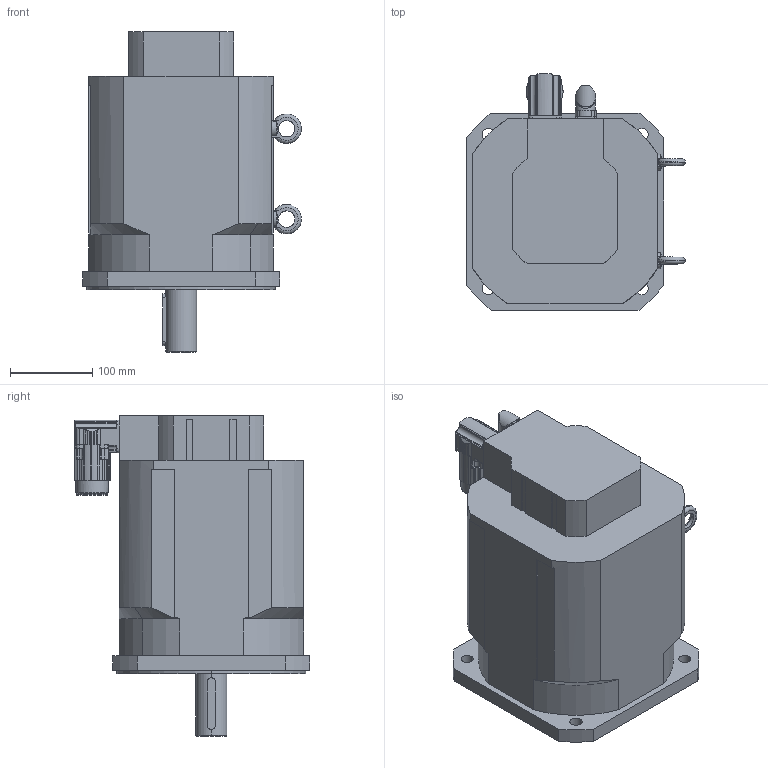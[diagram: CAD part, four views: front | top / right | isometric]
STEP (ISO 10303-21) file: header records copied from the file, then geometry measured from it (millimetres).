
FILE_DESCRIPTION(('STEP AP203'),'2;1');
FILE_NAME('MT8-0400.stp','2006-08-28T20:34:25',(''),(''),'2005.2.102','THINKDESIGN','');
FILE_SCHEMA(('CONFIG_CONTROL_DESIGN'));
Length unit declared in the file: millimetre
Bounding box: 266.5 x 287.18 x 390 mm (x, y, z)
Volume: 13407268.8 mm3; surface area: 417669.5 mm2
Topology: 5 solids, 5 shells, 540 faces, 1452 edges, 933 vertices
Faces by surface type: cylinder 257, plane 192, bspline 91
Full cylindrical faces by diameter (mm): 23 x1, 37.8 x1, 40 x1
Entity records: 19457 total; most frequent: CARTESIAN_POINT 6040, ORIENTED_EDGE 2892, DIRECTION 2772, EDGE_CURVE 1446, AXIS2_PLACEMENT_3D 1051, VERTEX_POINT 933, VECTOR 670, LINE 670
